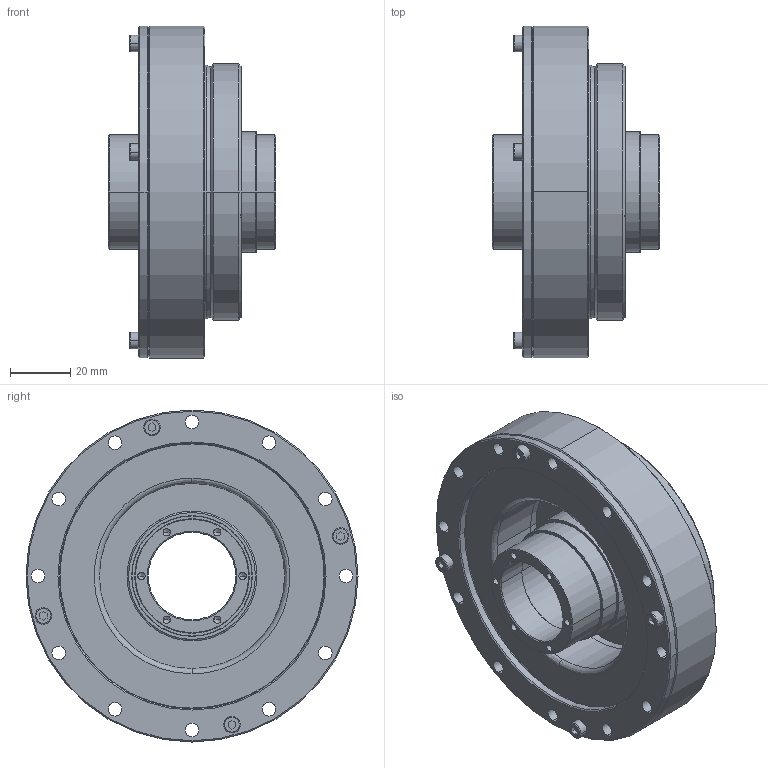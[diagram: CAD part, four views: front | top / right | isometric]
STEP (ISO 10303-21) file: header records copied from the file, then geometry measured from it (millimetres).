
FILE_DESCRIPTION(('STEP AP214'),'1');
FILE_NAME('cctmp_018F10AA-4FC5-43F6-AB8F-BEF2BA6368FD_2025_03_06_11_21_13_0562_65344..stp','2025-03-06T10:21:13',('HIWIN GmbH'),('CADClick - www.CADClick.com'),'Spatial InterOp 3D',' ','unknown authorization');
FILE_SCHEMA(('AUTOMOTIVE_DESIGN'));
Length unit declared in the file: millimetre
Products named in the file (2): DSH-25-XX-PH_FILE; 2025_03_06_11_21_13_0547
Assembly tree (1 placements, depth 2):
  DSH-25-XX-PH_FILE
    2025_03_06_11_21_13_0547
Bounding box: 55.5 x 110 x 110 mm (x, y, z)
Volume: 205763.9 mm3; surface area: 52925.1 mm2
Topology: 1 solids, 1 shells, 394 faces, 952 edges, 580 vertices
Faces by surface type: cylinder 172, plane 102, cone 94, bspline 26
Entity records: 15622 total; most frequent: CARTESIAN_POINT 3220, DIRECTION 2062, ORIENTED_EDGE 1792, EDGE_CURVE 896, AXIS2_PLACEMENT_3D 826, VERTEX_POINT 580, EDGE_LOOP 496, CIRCLE 456
